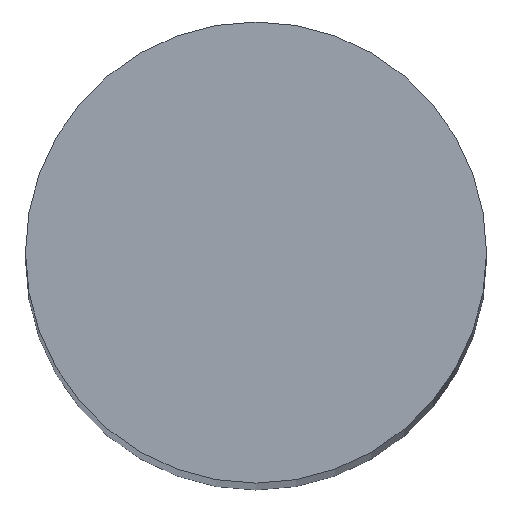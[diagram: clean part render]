
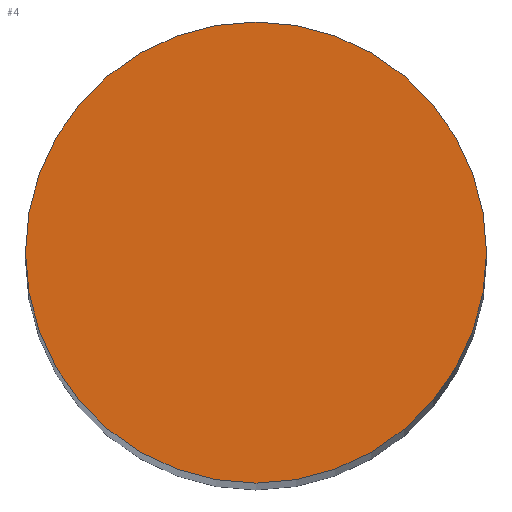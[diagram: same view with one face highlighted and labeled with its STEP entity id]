
A CAD part, top view. The second image highlights one B-rep face of the part: STEP entity #4.
In plain terms, the highlighted planar face has unit normal (0, 0, 1).
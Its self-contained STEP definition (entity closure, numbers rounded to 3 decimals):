
#4 = ADVANCED_FACE ( 'NONE', ( #119 ), #58, .T. ) ;
#6 = CIRCLE ( 'NONE', #12, 1.75 ) ;
#7 = ORIENTED_EDGE ( 'NONE', *, *, #45, .T. ) ;
#12 = AXIS2_PLACEMENT_3D ( 'NONE', #29, #108, #13 ) ;
#13 = DIRECTION ( 'NONE',  ( 1., 0., 0. ) ) ;
#14 = ORIENTED_EDGE ( 'NONE', *, *, #23, .T. ) ;
#17 = DIRECTION ( 'NONE',  ( 0., 0., 1. ) ) ;
#23 = EDGE_CURVE ( 'NONE', #81, #53, #6, .T. ) ;
#24 = CARTESIAN_POINT ( 'NONE',  ( 0., 0., 30. ) ) ;
#29 = CARTESIAN_POINT ( 'NONE',  ( 0., 0., 30. ) ) ;
#43 = DIRECTION ( 'NONE',  ( 1., 0., 0. ) ) ;
#45 = EDGE_CURVE ( 'NONE', #53, #81, #68, .T. ) ;
#46 = CARTESIAN_POINT ( 'NONE',  ( 1.75, 0., 30. ) ) ;
#49 = DIRECTION ( 'NONE',  ( 1., 0., 0. ) ) ;
#53 = VERTEX_POINT ( 'NONE', #90 ) ;
#58 = PLANE ( 'NONE',  #66 ) ;
#62 = CARTESIAN_POINT ( 'NONE',  ( 0., 0., 30. ) ) ;
#66 = AXIS2_PLACEMENT_3D ( 'NONE', #24, #103, #43 ) ;
#68 = CIRCLE ( 'NONE', #76, 1.75 ) ;
#76 = AXIS2_PLACEMENT_3D ( 'NONE', #62, #17, #49 ) ;
#81 = VERTEX_POINT ( 'NONE', #46 ) ;
#90 = CARTESIAN_POINT ( 'NONE',  ( -1.75, 0., 30. ) ) ;
#103 = DIRECTION ( 'NONE',  ( 0., 0., 1. ) ) ;
#108 = DIRECTION ( 'NONE',  ( 0., 0., 1. ) ) ;
#119 = FACE_OUTER_BOUND ( 'NONE', #121, .T. ) ;
#121 = EDGE_LOOP ( 'NONE', ( #7, #14 ) ) ;
